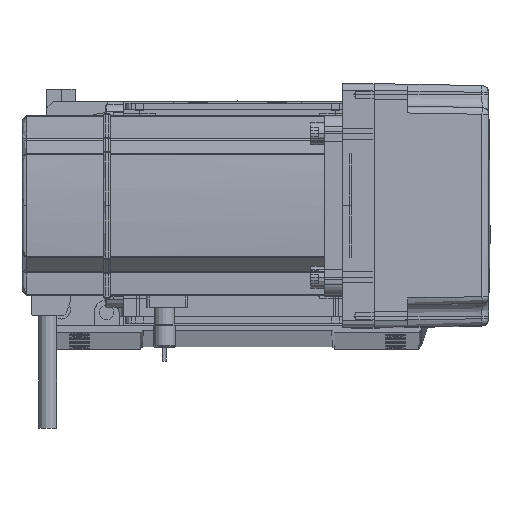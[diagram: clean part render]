
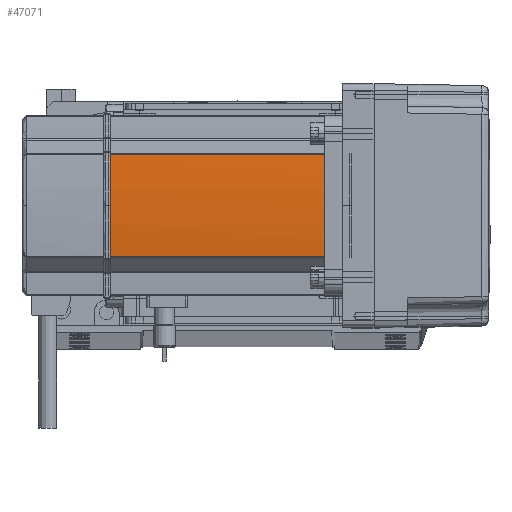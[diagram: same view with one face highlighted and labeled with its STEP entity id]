
A CAD part, top view. The second image highlights one B-rep face of the part: STEP entity #47071.
In plain terms, the highlighted cylindrical face has radius 270 mm (diameter 540 mm), a partial arc.
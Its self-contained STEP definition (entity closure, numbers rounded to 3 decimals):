
#2499 = CARTESIAN_POINT ( 'NONE',  ( 230., 0., 134. ) ) ;
#5216 = VERTEX_POINT ( 'NONE', #23722 ) ;
#5284 = EDGE_CURVE ( 'NONE', #23781, #5216, #9663, .T. ) ;
#9663 = CIRCLE ( 'NONE', #11480, 270. ) ;
#11480 = AXIS2_PLACEMENT_3D ( 'NONE', #55855, #34901, #56775 ) ;
#13047 = CARTESIAN_POINT ( 'NONE',  ( -39.042, -22.724, 0. ) ) ;
#15893 = CARTESIAN_POINT ( 'NONE',  ( 230., 0., 134. ) ) ;
#16783 = CARTESIAN_POINT ( 'NONE',  ( -40., 0., 134. ) ) ;
#16922 = DIRECTION ( 'NONE',  ( 0., 0., 1. ) ) ;
#17465 = AXIS2_PLACEMENT_3D ( 'NONE', #2499, #46553, #30373 ) ;
#18120 = CIRCLE ( 'NONE', #39883, 270. ) ;
#19681 = CARTESIAN_POINT ( 'NONE',  ( -39.042, -22.724, 134. ) ) ;
#20315 = EDGE_CURVE ( 'NONE', #54021, #38564, #69414, .T. ) ;
#20970 = DIRECTION ( 'NONE',  ( 1., 0., 0. ) ) ;
#21720 = DIRECTION ( 'NONE',  ( 1., 0., 0. ) ) ;
#23722 = CARTESIAN_POINT ( 'NONE',  ( -39.042, 22.724, 39. ) ) ;
#23781 = VERTEX_POINT ( 'NONE', #42334 ) ;
#29779 = EDGE_CURVE ( 'NONE', #38564, #40054, #18120, .T. ) ;
#30373 = DIRECTION ( 'NONE',  ( 1., 0., 0. ) ) ;
#30450 = ORIENTED_EDGE ( 'NONE', *, *, #29779, .T. ) ;
#30711 = EDGE_CURVE ( 'NONE', #40054, #5216, #48746, .T. ) ;
#31850 = ORIENTED_EDGE ( 'NONE', *, *, #20315, .T. ) ;
#34255 = VECTOR ( 'NONE', #62944, 1000. ) ;
#34492 = ORIENTED_EDGE ( 'NONE', *, *, #5284, .F. ) ;
#34592 = FACE_OUTER_BOUND ( 'NONE', #63526, .T. ) ;
#34901 = DIRECTION ( 'NONE',  ( 0., 0., -1. ) ) ;
#34966 = AXIS2_PLACEMENT_3D ( 'NONE', #65527, #16922, #21720 ) ;
#37697 = EDGE_CURVE ( 'NONE', #23781, #54021, #50384, .T. ) ;
#38564 = VERTEX_POINT ( 'NONE', #16783 ) ;
#39883 = AXIS2_PLACEMENT_3D ( 'NONE', #15893, #53567, #20970 ) ;
#40054 = VERTEX_POINT ( 'NONE', #51428 ) ;
#41838 = VECTOR ( 'NONE', #51415, 1000. ) ;
#42334 = CARTESIAN_POINT ( 'NONE',  ( -39.042, -22.724, 39. ) ) ;
#46553 = DIRECTION ( 'NONE',  ( 0., 0., -1. ) ) ;
#47071 = ADVANCED_FACE ( 'NONE', ( #34592 ), #66923, .T. ) ;
#48746 = LINE ( 'NONE', #56954, #34255 ) ;
#50384 = LINE ( 'NONE', #13047, #41838 ) ;
#51415 = DIRECTION ( 'NONE',  ( 0., 0., 1. ) ) ;
#51428 = CARTESIAN_POINT ( 'NONE',  ( -39.042, 22.724, 134. ) ) ;
#53567 = DIRECTION ( 'NONE',  ( 0., 0., -1. ) ) ;
#54021 = VERTEX_POINT ( 'NONE', #19681 ) ;
#55855 = CARTESIAN_POINT ( 'NONE',  ( 230., 0., 39. ) ) ;
#56290 = ORIENTED_EDGE ( 'NONE', *, *, #30711, .T. ) ;
#56775 = DIRECTION ( 'NONE',  ( 1., 0., 0. ) ) ;
#56954 = CARTESIAN_POINT ( 'NONE',  ( -39.042, 22.724, 0. ) ) ;
#62944 = DIRECTION ( 'NONE',  ( 0., 0., -1. ) ) ;
#63526 = EDGE_LOOP ( 'NONE', ( #31850, #30450, #56290, #34492, #69162 ) ) ;
#65527 = CARTESIAN_POINT ( 'NONE',  ( 230., 0., 0. ) ) ;
#66923 = CYLINDRICAL_SURFACE ( 'NONE', #34966, 270. ) ;
#69162 = ORIENTED_EDGE ( 'NONE', *, *, #37697, .T. ) ;
#69414 = CIRCLE ( 'NONE', #17465, 270. ) ;
